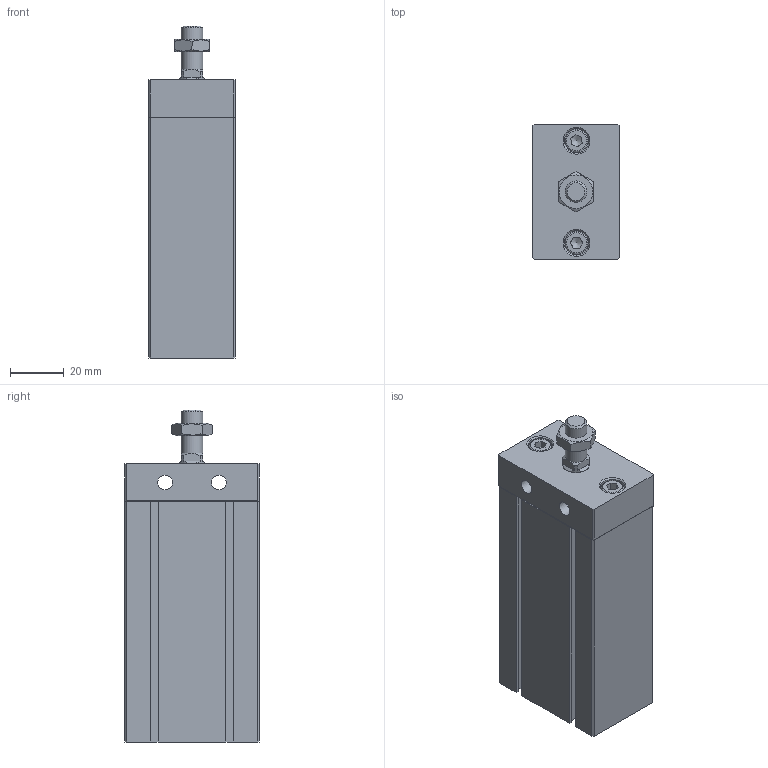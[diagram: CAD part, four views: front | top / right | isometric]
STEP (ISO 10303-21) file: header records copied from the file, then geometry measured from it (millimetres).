
FILE_DESCRIPTION((''),'2;1');
FILE_NAME('I:\3D電子目錄\氣缸\ND\ND\ND25-B\ND25x60-B.stp','2007-07-24T19:25:47',('Administrator'),(''),'Autodesk Inventor 11','Autodesk Inventor 11','');
FILE_SCHEMA(('AUTOMOTIVE_DESIGN { 1 0 10303 214 1 1 1 1 }'));
Length unit declared in the file: millimetre
Products named in the file (4): ND25-B; ISO 4762 M5 x 12; R 形環 28
Assembly tree (4 placements, depth 2):
  ND25-B
    ND25-B
    ISO 4762 M5 x 12  x2
    R 形環 28
Bounding box: 32 x 50.1 x 123.5 mm (x, y, z)
Volume: 154682.6 mm3; surface area: 30273 mm2
Topology: 5 solids, 5 shells, 177 faces, 411 edges, 261 vertices
Faces by surface type: plane 113, cylinder 27, cone 20, bspline 14, torus 3
Full cylindrical faces by diameter (mm): 1.5 x2, 1.9 x2, 5 x2, 5.5 x2, 8 x2, 8.5 x2, 9 x2, 17 x1, 28 x1, 29.4 x1
Entity records: 4577 total; most frequent: CARTESIAN_POINT 975, DIRECTION 714, ORIENTED_EDGE 668, EDGE_CURVE 334, AXIS2_PLACEMENT_3D 249, VERTEX_POINT 236, EDGE_LOOP 228, VECTOR 216
